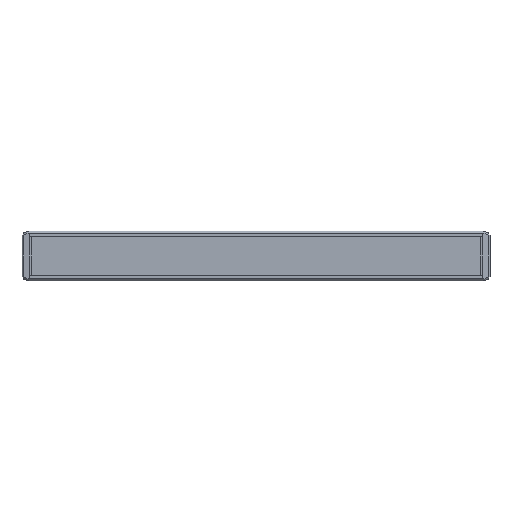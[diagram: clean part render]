
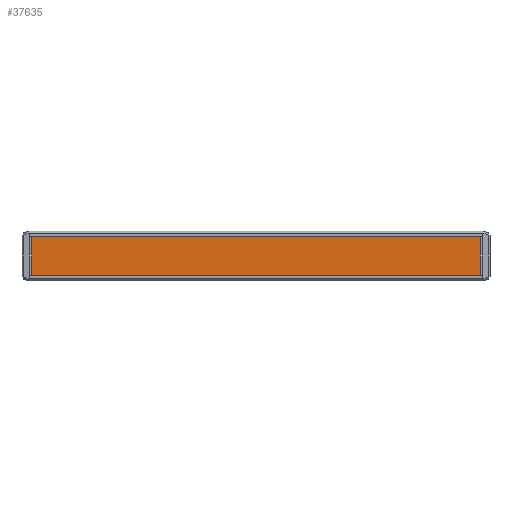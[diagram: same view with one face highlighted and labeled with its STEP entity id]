
A CAD part, front view. The second image highlights one B-rep face of the part: STEP entity #37635.
In plain terms, the highlighted planar face has unit normal (0, -1, 0) as drawn and (0, 1, 0) by its records, which use the part's own axes.
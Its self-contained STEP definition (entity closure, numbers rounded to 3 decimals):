
#37491=DIRECTION('',(-1.,0.,0.));
#37492=VECTOR('',#37491,34.6);
#37493=CARTESIAN_POINT('',(17.3,2.,-183.1));
#37494=LINE('',#37493,#37492);
#37512=DIRECTION('',(0.,0.,1.));
#37513=VECTOR('',#37512,366.2);
#37514=CARTESIAN_POINT('',(-17.3,2.,-183.1));
#37515=LINE('',#37514,#37513);
#37519=DIRECTION('',(0.,0.,1.));
#37520=VECTOR('',#37519,366.2);
#37521=CARTESIAN_POINT('',(17.3,2.,-183.1));
#37522=LINE('',#37521,#37520);
#37547=DIRECTION('',(-1.,0.,0.));
#37548=VECTOR('',#37547,34.6);
#37549=CARTESIAN_POINT('',(17.3,2.,183.1));
#37550=LINE('',#37549,#37548);
#37565=CARTESIAN_POINT('',(17.3,2.,-183.1));
#37566=VERTEX_POINT('',#37565);
#37567=CARTESIAN_POINT('',(-17.3,2.,-183.1));
#37568=VERTEX_POINT('',#37567);
#37573=CARTESIAN_POINT('',(17.3,2.,183.1));
#37574=VERTEX_POINT('',#37573);
#37575=CARTESIAN_POINT('',(-17.3,2.,183.1));
#37576=VERTEX_POINT('',#37575);
#37622=CARTESIAN_POINT('',(17.3,2.,-183.1));
#37623=DIRECTION('',(0.,1.,0.));
#37624=DIRECTION('',(-1.,0.,0.));
#37625=AXIS2_PLACEMENT_3D('',#37622,#37623,#37624);
#37626=PLANE('',#37625);
#37627=ORIENTED_EDGE('',*,*,#37586,.F.);
#37629=ORIENTED_EDGE('',*,*,#37628,.T.);
#37631=ORIENTED_EDGE('',*,*,#37630,.T.);
#37632=ORIENTED_EDGE('',*,*,#37614,.F.);
#37633=EDGE_LOOP('',(#37627,#37629,#37631,#37632));
#37634=FACE_OUTER_BOUND('',#37633,.F.);
#37586=EDGE_CURVE('',#37566,#37568,#37494,.T.);
#37614=EDGE_CURVE('',#37568,#37576,#37515,.T.);
#37628=EDGE_CURVE('',#37566,#37574,#37522,.T.);
#37630=EDGE_CURVE('',#37574,#37576,#37550,.T.);
#37635=ADVANCED_FACE('',(#37634),#37626,.T.);
